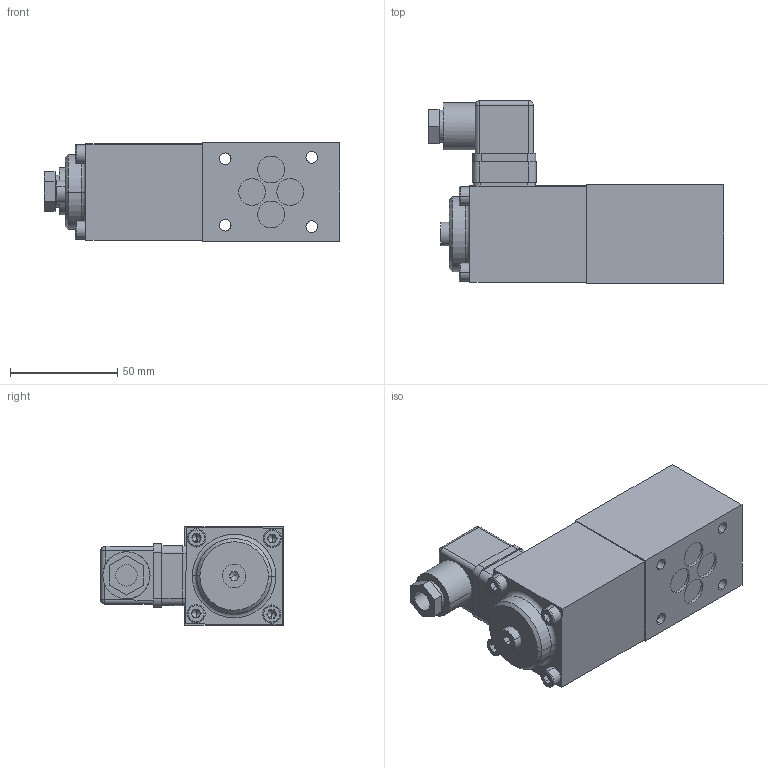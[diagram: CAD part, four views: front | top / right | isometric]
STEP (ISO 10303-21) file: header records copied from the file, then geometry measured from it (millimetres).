
FILE_DESCRIPTION (( 'STEP AP214' ), '1' );
FILE_NAME ('A.22061a.STEP', '2017-03-17T13:38:41', ( '' ), ( '' ), 'SwSTEP 2.0', 'SolidWorks 2016', '' );
FILE_SCHEMA (( 'AUTOMOTIVE_DESIGN' ));
Length unit declared in the file: millimetre
Products named in the file (1): A.22061a
Bounding box: 137.95 x 85.37 x 46 mm (x, y, z)
Volume: 278389.1 mm3; surface area: 52951.7 mm2
Topology: 10 solids, 14 shells, 599 faces, 1511 edges, 957 vertices
Faces by surface type: plane 330, cylinder 183, cone 56, torus 18, bspline 12
Entity records: 25458 total; most frequent: CARTESIAN_POINT 4226, DIRECTION 3041, ORIENTED_EDGE 2954, EDGE_CURVE 1477, AXIS2_PLACEMENT_3D 1050, VERTEX_POINT 957, VECTOR 941, LINE 941
